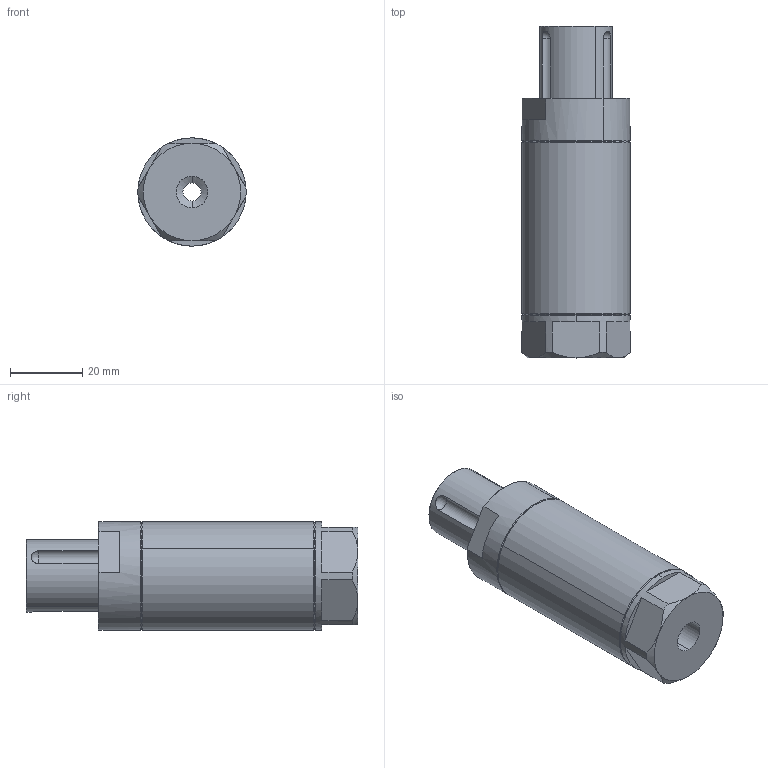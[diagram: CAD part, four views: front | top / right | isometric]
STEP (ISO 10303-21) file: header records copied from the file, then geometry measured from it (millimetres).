
FILE_DESCRIPTION (( 'STEP AP214' ), '1' );
FILE_NAME ('VFG30-20.STEP', '2019-11-15T08:16:20', ( '微软用户' ), ( '微软中国' ), 'SwSTEP 2.0', 'SolidWorks 2016', '' );
FILE_SCHEMA (( 'AUTOMOTIVE_DESIGN' ));
Length unit declared in the file: millimetre
Products named in the file (1): VFG30-20
Bounding box: 30 x 92 x 30 mm (x, y, z)
Volume: 39719 mm3; surface area: 26273.3 mm2
Topology: 5 solids, 5 shells, 322 faces, 681 edges, 383 vertices
Faces by surface type: cone 129, cylinder 111, plane 44, torus 38
Entity records: 12713 total; most frequent: CARTESIAN_POINT 2022, DIRECTION 1653, ORIENTED_EDGE 1352, AXIS2_PLACEMENT_3D 696, EDGE_CURVE 676, VERTEX_POINT 383, CIRCLE 373, EDGE_LOOP 359
